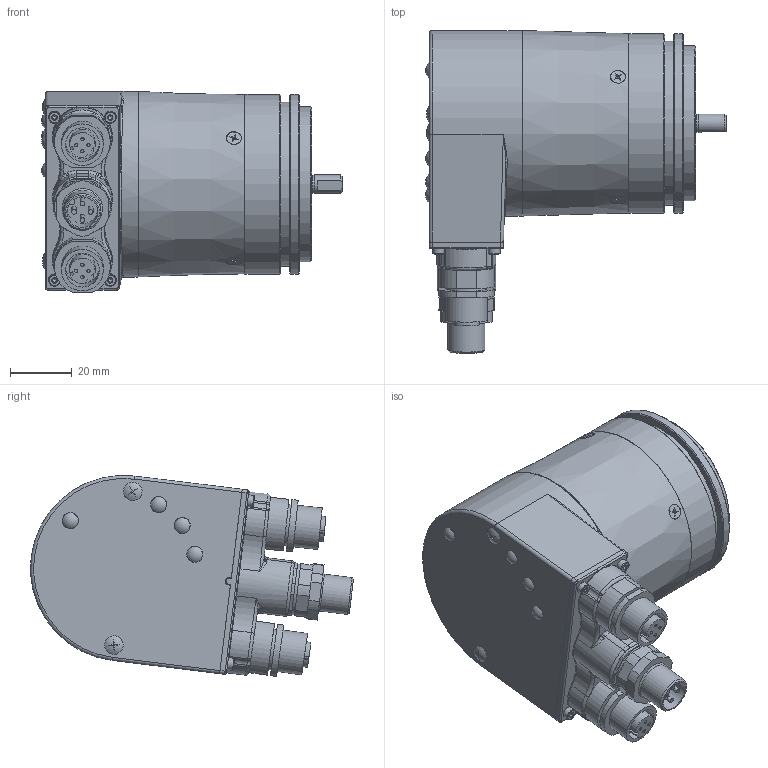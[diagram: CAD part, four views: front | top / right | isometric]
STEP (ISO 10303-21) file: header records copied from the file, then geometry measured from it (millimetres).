
FILE_DESCRIPTION (( 'STEP AP203' ), '1' );
FILE_NAME ('8.5868.21C2.C212.STEP', '2013-10-11T09:43:57', ( 'HeirlerN' ), ( 'Microsoft' ), 'SwSTEP 2.0', 'SolidWorks 2013', '' );
FILE_SCHEMA (( 'CONFIG_CONTROL_DESIGN' ));
Length unit declared in the file: millimetre
Products named in the file (1): 8.5868.21C2.C212
Bounding box: 97.2 x 104.28 x 64.93 mm (x, y, z)
Volume: 123126.4 mm3; surface area: 81936.2 mm2
Topology: 30 solids, 31 shells, 2247 faces, 5960 edges, 3851 vertices
Faces by surface type: plane 867, cylinder 828, cone 271, torus 140, bspline 107, sphere 34
Full cylindrical faces by diameter (mm): 1 x2, 1.05 x8, 1.5 x4, 1.6 x4, 2 x6, 2.05 x10, 2.2 x9, 2.5 x4, 2.6 x6, 3 x4, 3.3 x5, 3.8 x4, 4.7 x4, 5.1 x8, 5.2 x4, 5.8 x1, 6 x7, 6.8 x4, 8 x4, 8.1 x4, 9.8 x1, 10 x3, 11 x2, 12 x1, 13.2 x4, 13.5 x2, 14 x3, 14.3 x2, 14.5 x2, 15 x1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
Entity records: 75639 total; most frequent: CARTESIAN_POINT 22407, DIRECTION 11053, ORIENTED_EDGE 10958, EDGE_CURVE 5479, AXIS2_PLACEMENT_3D 4495, VERTEX_POINT 3722, EDGE_LOOP 2765, FACE_OUTER_BOUND 2474
